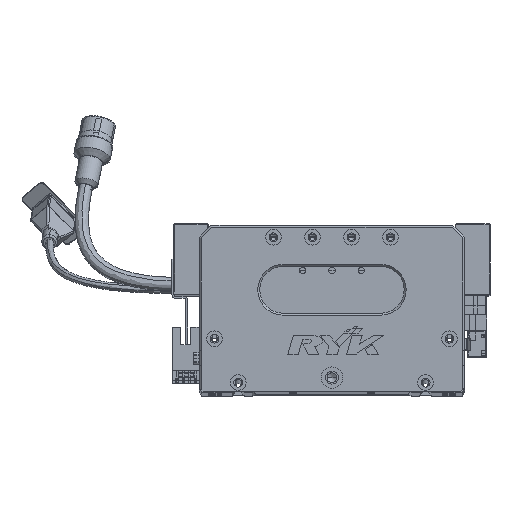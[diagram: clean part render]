
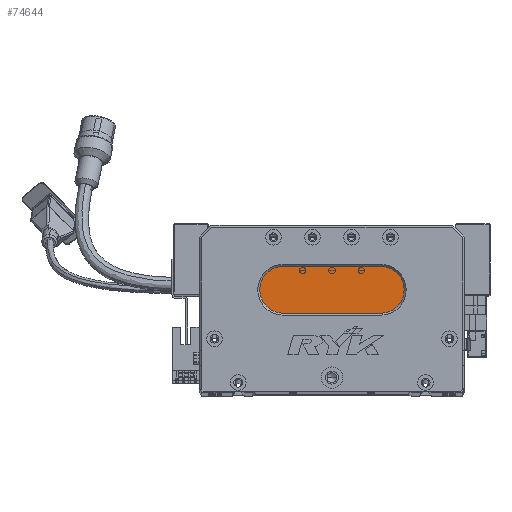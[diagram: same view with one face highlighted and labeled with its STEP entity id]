
A CAD part, top view. The second image highlights one B-rep face of the part: STEP entity #74644.
In plain terms, the highlighted planar face has unit normal (0, 0, 1) as drawn and (0, 0, -1) by its records, which use the part's own axes.
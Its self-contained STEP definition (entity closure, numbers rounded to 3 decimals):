
#633 = ORIENTED_EDGE ( 'NONE', *, *, #57470, .T. ) ;
#2037 = ORIENTED_EDGE ( 'NONE', *, *, #16811, .T. ) ;
#2140 = EDGE_CURVE ( 'NONE', #16492, #80635, #23156, .T. ) ;
#4946 = VECTOR ( 'NONE', #33695, 1000. ) ;
#8683 = ORIENTED_EDGE ( 'NONE', *, *, #44823, .T. ) ;
#9195 = CARTESIAN_POINT ( 'NONE',  ( 93., 52., 13. ) ) ;
#16492 = VERTEX_POINT ( 'NONE', #58744 ) ;
#16811 = EDGE_CURVE ( 'NONE', #80635, #43963, #87886, .T. ) ;
#17188 = DIRECTION ( 'NONE',  ( -1., 0., 0. ) ) ;
#19779 = EDGE_LOOP ( 'NONE', ( #633, #8683, #74875, #77469, #2037 ) ) ;
#23156 = CIRCLE ( 'NONE', #76866, 12. ) ;
#24394 = CARTESIAN_POINT ( 'NONE',  ( 43., 40., 13. ) ) ;
#25668 = AXIS2_PLACEMENT_3D ( 'NONE', #38408, #31716, #80261 ) ;
#27121 = VECTOR ( 'NONE', #38950, 1000. ) ;
#28038 = AXIS2_PLACEMENT_3D ( 'NONE', #33638, #47633, #67488 ) ;
#30247 = DIRECTION ( 'NONE',  ( 0., 0., -1. ) ) ;
#30316 = VERTEX_POINT ( 'NONE', #24394 ) ;
#30469 = DIRECTION ( 'NONE',  ( 0., 0., -1. ) ) ;
#31716 = DIRECTION ( 'NONE',  ( 0., 0., -1. ) ) ;
#33638 = CARTESIAN_POINT ( 'NONE',  ( 93., 52., 13. ) ) ;
#33695 = DIRECTION ( 'NONE',  ( 1., 0., 0. ) ) ;
#35211 = CIRCLE ( 'NONE', #54501, 12. ) ;
#37702 = CARTESIAN_POINT ( 'NONE',  ( 93., 40., 13. ) ) ;
#38073 = DIRECTION ( 'NONE',  ( -1., 0., 0. ) ) ;
#38408 = CARTESIAN_POINT ( 'NONE',  ( 43., 52., 13. ) ) ;
#38950 = DIRECTION ( 'NONE',  ( -1., 0., 0. ) ) ;
#43963 = VERTEX_POINT ( 'NONE', #64348 ) ;
#44823 = EDGE_CURVE ( 'NONE', #90114, #30316, #47796, .T. ) ;
#47633 = DIRECTION ( 'NONE',  ( 0., 0., -1. ) ) ;
#47796 = LINE ( 'NONE', #73457, #27121 ) ;
#54501 = AXIS2_PLACEMENT_3D ( 'NONE', #9195, #30469, #38073 ) ;
#54762 = CARTESIAN_POINT ( 'NONE',  ( 93., 64., 13. ) ) ;
#57470 = EDGE_CURVE ( 'NONE', #43963, #90114, #35211, .T. ) ;
#58744 = CARTESIAN_POINT ( 'NONE',  ( 31., 52., 13. ) ) ;
#58929 = CARTESIAN_POINT ( 'NONE',  ( 43., 52., 13. ) ) ;
#59558 = CIRCLE ( 'NONE', #25668, 12. ) ;
#64348 = CARTESIAN_POINT ( 'NONE',  ( 93., 64., 13. ) ) ;
#67488 = DIRECTION ( 'NONE',  ( -1., 0., 0. ) ) ;
#70979 = FACE_OUTER_BOUND ( 'NONE', #19779, .T. ) ;
#73457 = CARTESIAN_POINT ( 'NONE',  ( 93., 40., 13. ) ) ;
#74644 = ADVANCED_FACE ( 'NONE', ( #70979 ), #75447, .T. ) ;
#74875 = ORIENTED_EDGE ( 'NONE', *, *, #83527, .T. ) ;
#75447 = PLANE ( 'NONE',  #28038 ) ;
#76866 = AXIS2_PLACEMENT_3D ( 'NONE', #58929, #30247, #17188 ) ;
#77469 = ORIENTED_EDGE ( 'NONE', *, *, #2140, .T. ) ;
#80261 = DIRECTION ( 'NONE',  ( -1., 0., 0. ) ) ;
#80635 = VERTEX_POINT ( 'NONE', #88646 ) ;
#83527 = EDGE_CURVE ( 'NONE', #30316, #16492, #59558, .T. ) ;
#87886 = LINE ( 'NONE', #54762, #4946 ) ;
#88646 = CARTESIAN_POINT ( 'NONE',  ( 43., 64., 13. ) ) ;
#90114 = VERTEX_POINT ( 'NONE', #37702 ) ;
